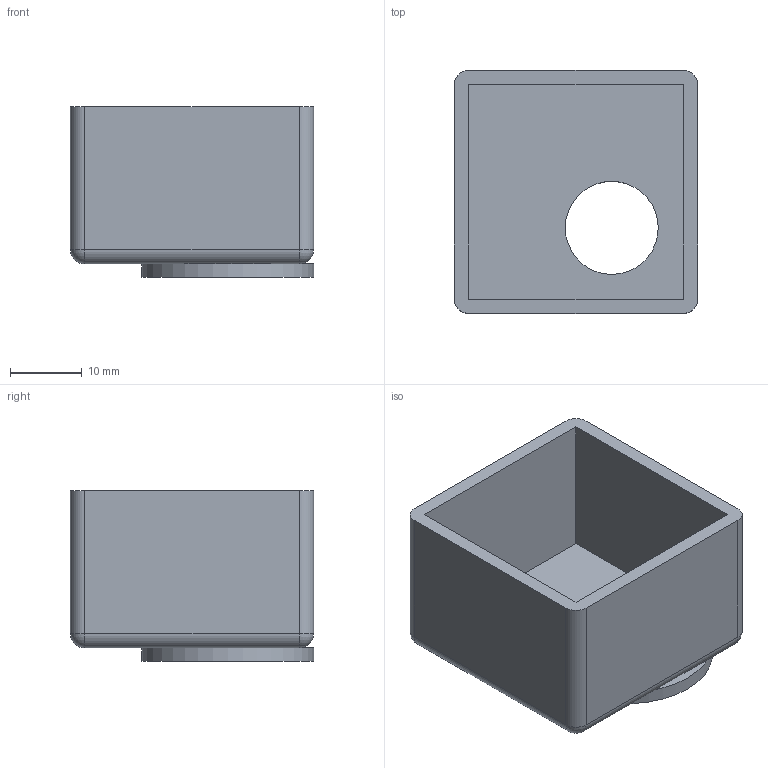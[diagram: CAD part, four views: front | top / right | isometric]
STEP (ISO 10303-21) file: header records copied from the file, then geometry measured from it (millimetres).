
FILE_DESCRIPTION(('STEP AP214'),'1');
FILE_NAME('EC30-H12.stp','2017-07-24T04:45:13',(' '),(' '),'Spatial InterOp 3D',' ',' ');
FILE_SCHEMA(('automotive_design'));
Length unit declared in the file: millimetre
Products named in the file (3): EC30-H12; M12PW
Assembly tree (2 placements, depth 2):
  EC30-H12
    EC30-H12
    M12PW
Bounding box: 34 x 34 x 23.9 mm (x, y, z)
Volume: 7587 mm3; surface area: 8182.4 mm2
Topology: 2 solids, 2 shells, 28 faces, 61 edges, 34 vertices
Faces by surface type: plane 13, cylinder 11, sphere 4
Full cylindrical faces by diameter (mm): 13 x2, 24 x1
Entity records: 1008 total; most frequent: DIRECTION 138, CARTESIAN_POINT 119, ORIENTED_EDGE 108, EDGE_CURVE 54, AXIS2_PLACEMENT_3D 53, EDGE_LOOP 36, VERTEX_POINT 34, LINE 32
